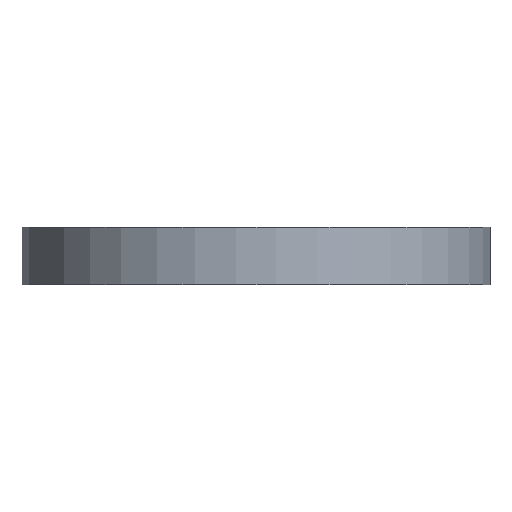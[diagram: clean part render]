
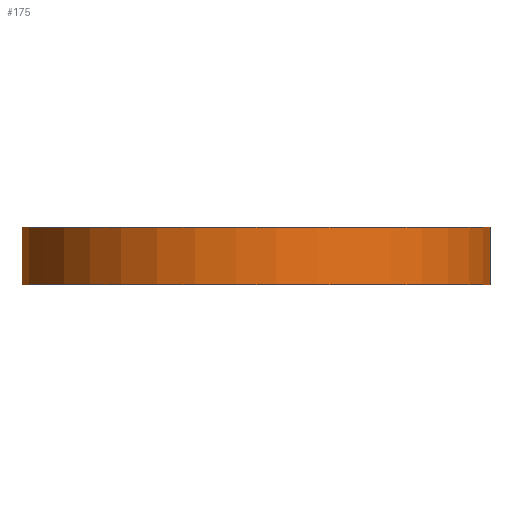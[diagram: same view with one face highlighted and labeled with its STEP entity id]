
A CAD part, front view. The second image highlights one B-rep face of the part: STEP entity #175.
In plain terms, the highlighted cylindrical face has radius 11.8 mm (diameter 23.6 mm), a partial arc.
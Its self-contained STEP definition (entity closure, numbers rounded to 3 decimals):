
#24=LINE('',#350,#34);
#28=LINE('',#360,#38);
#34=VECTOR('',#250,10.);
#38=VECTOR('',#262,10.);
#42=CYLINDRICAL_SURFACE('',#214,11.8);
#51=FACE_OUTER_BOUND('',#61,.T.);
#61=EDGE_LOOP('',(#157,#158,#159,#160));
#75=CIRCLE('',#211,11.8);
#76=CIRCLE('',#215,11.8);
#89=VERTEX_POINT('',#347);
#90=VERTEX_POINT('',#349);
#91=VERTEX_POINT('',#353);
#92=VERTEX_POINT('',#358);
#110=EDGE_CURVE('',#90,#89,#24,.T.);
#113=EDGE_CURVE('',#91,#89,#75,.T.);
#115=EDGE_CURVE('',#91,#92,#28,.T.);
#116=EDGE_CURVE('',#92,#90,#76,.T.);
#157=ORIENTED_EDGE('',*,*,#115,.T.);
#158=ORIENTED_EDGE('',*,*,#116,.T.);
#159=ORIENTED_EDGE('',*,*,#110,.T.);
#160=ORIENTED_EDGE('',*,*,#113,.F.);
#175=ADVANCED_FACE('',(#51),#42,.T.);
#211=AXIS2_PLACEMENT_3D('',#355,#255,#256);
#214=AXIS2_PLACEMENT_3D('',#361,#263,#264);
#215=AXIS2_PLACEMENT_3D('',#362,#265,#266);
#250=DIRECTION('',(0.,0.,-1.));
#255=DIRECTION('center_axis',(0.,0.,-1.));
#256=DIRECTION('ref_axis',(1.,0.,0.));
#262=DIRECTION('',(0.,0.,1.));
#263=DIRECTION('center_axis',(0.,0.,-1.));
#264=DIRECTION('ref_axis',(0.,1.,0.));
#265=DIRECTION('center_axis',(0.,0.,-1.));
#266=DIRECTION('ref_axis',(1.,0.,0.));
#347=CARTESIAN_POINT('',(-1.,11.758,-1.45));
#349=CARTESIAN_POINT('',(-1.,11.758,1.45));
#350=CARTESIAN_POINT('',(-1.,11.758,0.));
#353=CARTESIAN_POINT('',(1.,11.758,-1.45));
#355=CARTESIAN_POINT('Origin',(0.,0.,-1.45));
#358=CARTESIAN_POINT('',(1.,11.758,1.45));
#360=CARTESIAN_POINT('',(1.,11.758,0.));
#361=CARTESIAN_POINT('Origin',(0.,0.,0.));
#362=CARTESIAN_POINT('Origin',(0.,0.,1.45));
